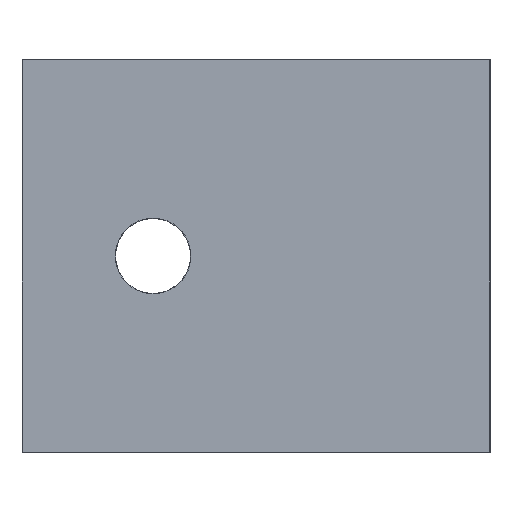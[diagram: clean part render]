
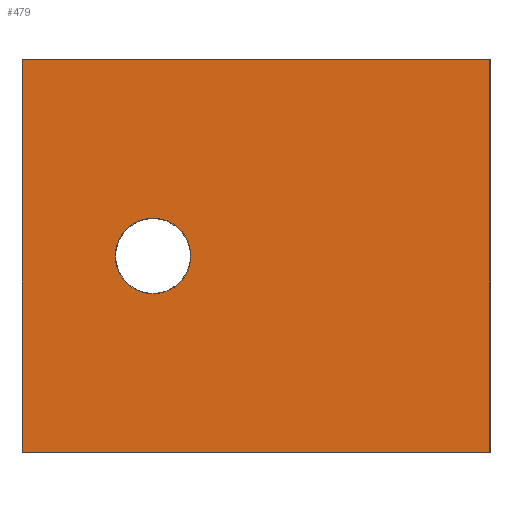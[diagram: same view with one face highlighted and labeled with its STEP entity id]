
A CAD part, top view. The second image highlights one B-rep face of the part: STEP entity #479.
In plain terms, the highlighted planar face has unit normal (0, 0, 1).
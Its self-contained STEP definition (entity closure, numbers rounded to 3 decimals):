
#62 = FACE_OUTER_BOUND ( 'NONE', #449, .T. ) ;
#63 = FACE_BOUND ( 'NONE', #329, .T. ) ;
#64 = PLANE ( 'NONE',  #65 ) ;
#65 = AXIS2_PLACEMENT_3D ( 'NONE', #66, #68, #69 ) ;
#66 = CARTESIAN_POINT ( 'NONE',  ( 0., 21., 1.5 ) ) ;
#68 = DIRECTION ( 'NONE',  ( 0., 0., -1. ) ) ;
#69 = DIRECTION ( 'NONE',  ( -1., 0., 0. ) ) ;
#83 = CARTESIAN_POINT ( 'NONE',  ( 4.98, 10.5, 1.5 ) ) ;
#93 = LINE ( 'NONE', #94, #95 ) ;
#94 = CARTESIAN_POINT ( 'NONE',  ( 0., 20.98, 1.5 ) ) ;
#95 = VECTOR ( 'NONE', #96, 1000. ) ;
#96 = DIRECTION ( 'NONE',  ( -1., 0., 0. ) ) ;
#114 = LINE ( 'NONE', #115, #116 ) ;
#115 = CARTESIAN_POINT ( 'NONE',  ( 24.98, 21., 1.5 ) ) ;
#116 = VECTOR ( 'NONE', #117, 1000. ) ;
#117 = DIRECTION ( 'NONE',  ( 0., 1., 0. ) ) ;
#140 = ORIENTED_EDGE ( 'NONE', *, *, #398, .T. ) ;
#247 = VERTEX_POINT ( 'NONE', #625 ) ;
#328 = VERTEX_POINT ( 'NONE', #734 ) ;
#329 = EDGE_LOOP ( 'NONE', ( #140, #474 ) ) ;
#340 = VERTEX_POINT ( 'NONE', #83 ) ;
#343 = EDGE_CURVE ( 'NONE', #328, #247, #93, .T. ) ;
#349 = EDGE_CURVE ( 'NONE', #798, #328, #114, .T. ) ;
#388 = ORIENTED_EDGE ( 'NONE', *, *, #343, .T. ) ;
#396 = ORIENTED_EDGE ( 'NONE', *, *, #349, .T. ) ;
#398 = EDGE_CURVE ( 'NONE', #340, #427, #785, .T. ) ;
#424 = VERTEX_POINT ( 'NONE', #595 ) ;
#427 = VERTEX_POINT ( 'NONE', #596 ) ;
#435 = EDGE_CURVE ( 'NONE', #427, #340, #619, .T. ) ;
#448 = EDGE_CURVE ( 'NONE', #247, #424, #680, .T. ) ;
#449 = EDGE_LOOP ( 'NONE', ( #388, #497, #833, #396 ) ) ;
#474 = ORIENTED_EDGE ( 'NONE', *, *, #435, .T. ) ;
#479 = ADVANCED_FACE ( 'NONE', ( #62, #63 ), #64, .F. ) ;
#497 = ORIENTED_EDGE ( 'NONE', *, *, #448, .T. ) ;
#536 = CARTESIAN_POINT ( 'NONE',  ( 24.98, 0.02, 1.5 ) ) ;
#595 = CARTESIAN_POINT ( 'NONE',  ( 0.02, 0.02, 1.5 ) ) ;
#596 = CARTESIAN_POINT ( 'NONE',  ( 9.02, 10.5, 1.5 ) ) ;
#619 = CIRCLE ( 'NONE', #620, 2.02 ) ;
#620 = AXIS2_PLACEMENT_3D ( 'NONE', #621, #622, #623 ) ;
#621 = CARTESIAN_POINT ( 'NONE',  ( 7., 10.5, 1.5 ) ) ;
#622 = DIRECTION ( 'NONE',  ( 0., 0., -1. ) ) ;
#623 = DIRECTION ( 'NONE',  ( -1., 0., 0. ) ) ;
#625 = CARTESIAN_POINT ( 'NONE',  ( 0.02, 20.98, 1.5 ) ) ;
#651 = LINE ( 'NONE', #652, #656 ) ;
#652 = CARTESIAN_POINT ( 'NONE',  ( 0., 0.02, 1.5 ) ) ;
#656 = VECTOR ( 'NONE', #657, 1000. ) ;
#657 = DIRECTION ( 'NONE',  ( 1., 0., 0. ) ) ;
#680 = LINE ( 'NONE', #681, #682 ) ;
#681 = CARTESIAN_POINT ( 'NONE',  ( 0.02, 21., 1.5 ) ) ;
#682 = VECTOR ( 'NONE', #683, 1000. ) ;
#683 = DIRECTION ( 'NONE',  ( 0., -1., 0. ) ) ;
#734 = CARTESIAN_POINT ( 'NONE',  ( 24.98, 20.98, 1.5 ) ) ;
#785 = CIRCLE ( 'NONE', #786, 2.02 ) ;
#786 = AXIS2_PLACEMENT_3D ( 'NONE', #787, #788, #789 ) ;
#787 = CARTESIAN_POINT ( 'NONE',  ( 7., 10.5, 1.5 ) ) ;
#788 = DIRECTION ( 'NONE',  ( 0., 0., -1. ) ) ;
#789 = DIRECTION ( 'NONE',  ( -1., 0., 0. ) ) ;
#798 = VERTEX_POINT ( 'NONE', #536 ) ;
#808 = EDGE_CURVE ( 'NONE', #424, #798, #651, .T. ) ;
#833 = ORIENTED_EDGE ( 'NONE', *, *, #808, .T. ) ;
